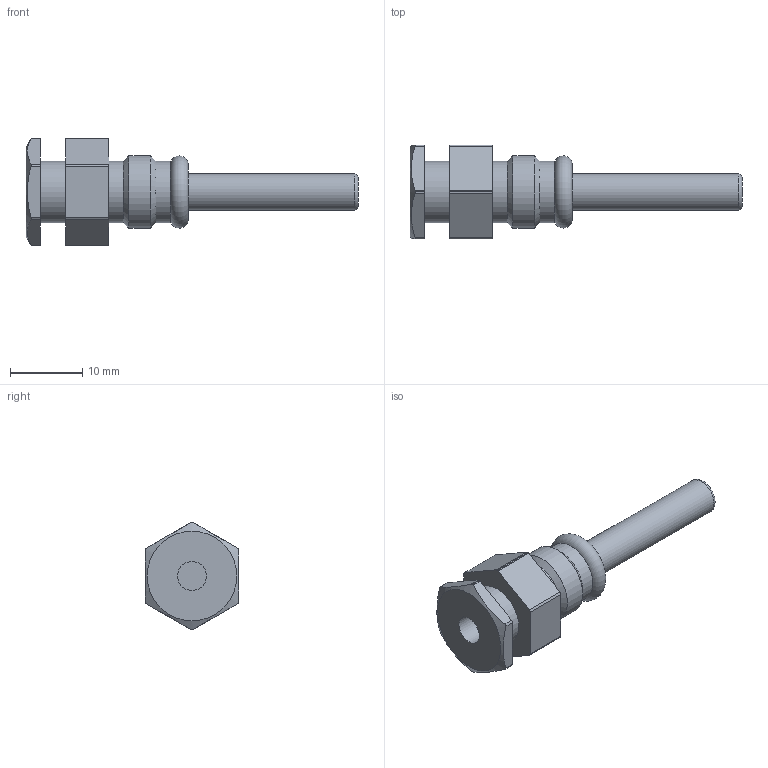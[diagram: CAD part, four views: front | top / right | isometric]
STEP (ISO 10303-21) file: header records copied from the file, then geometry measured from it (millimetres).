
FILE_DESCRIPTION(('TFLEX Exchange Step'),'2;1');
FILE_NAME('Temperature sensor VHM-T.stp', '2023-08-21T12:13:24+03:00',('denis'),('Unknown organisation'),'TFLEX Exchange 2023.0','T-FLEX CAD','Unknown authorisation');
FILE_SCHEMA( ('AUTOMOTIVE_DESIGN { 1 0 10303 214 1 1 1 1 }') );
Length unit declared in the file: millimetre
Products named in the file (1): Nodes
Bounding box: 46 x 13 x 14.8 mm (x, y, z)
Volume: 2514.1 mm3; surface area: 1839.6 mm2
Topology: 3 solids, 3 shells, 45 faces, 110 edges, 73 vertices
Faces by surface type: cylinder 20, plane 20, cone 3, torus 2
Full cylindrical faces by diameter (mm): 4 x1, 5 x1, 8.5 x3, 10 x1
Entity records: 1741 total; most frequent: CARTESIAN_POINT 601, DIRECTION 243, ORIENTED_EDGE 220, EDGE_CURVE 110, AXIS2_PLACEMENT_3D 95, VERTEX_POINT 73, VECTOR 53, LINE 53
